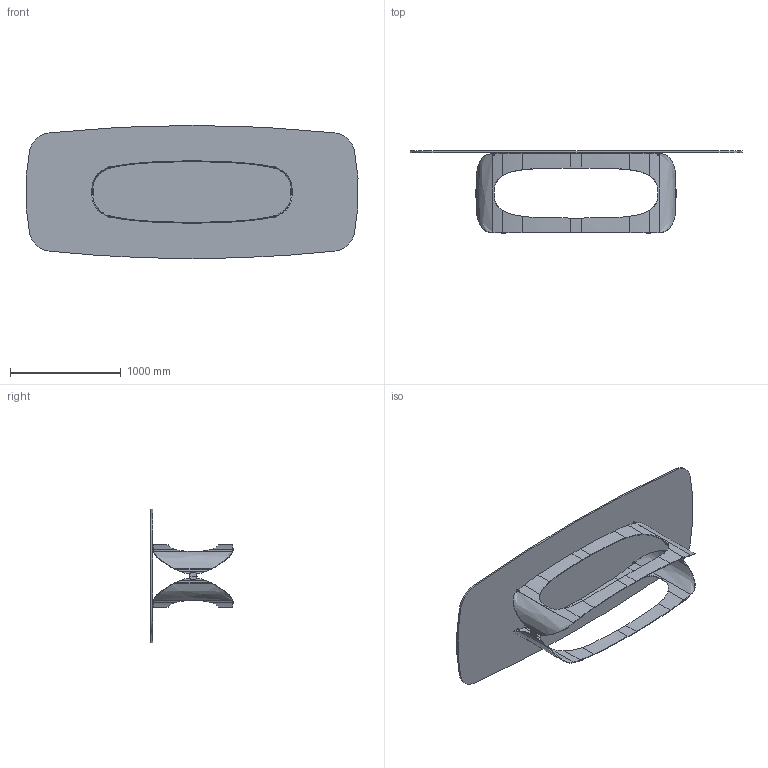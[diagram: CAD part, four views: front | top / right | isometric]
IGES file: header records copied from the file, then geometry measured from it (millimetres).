
Start section: SolidWorks IGES file using analytic representation for surfaces
Global section: file name: Y:\eforma\TECNICO\SOLIDWORKS\E-FORMA\1-TAVOLI\POLIFEMO\02 parts\PO44G_Polifemo_300x120_.IGS; native system: SolidWorks 2022; preprocessor: SolidWorks 2022; author: eforma.tech; date: 240806.161854; units: millimetre
Bounding box: 2991.72 x 739.97 x 1200 mm (x, y, z)
Volume: 59545183.1 mm3; surface area: 10032731.6 mm2
Topology: 24 solids, 24 shells, 577 faces, 1443 edges, 920 vertices
Faces by surface type: revolution 274, bspline 152, plane 151
